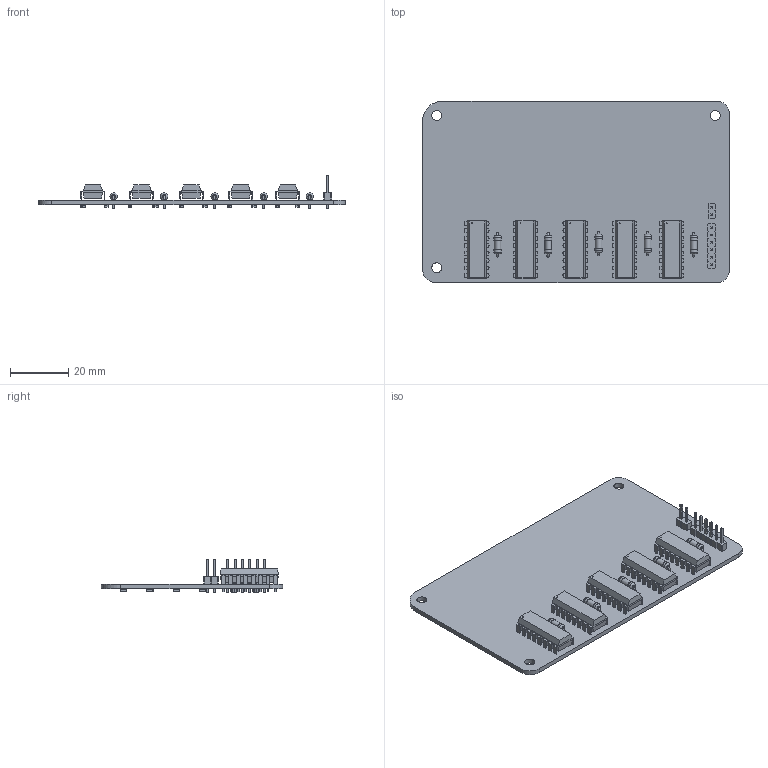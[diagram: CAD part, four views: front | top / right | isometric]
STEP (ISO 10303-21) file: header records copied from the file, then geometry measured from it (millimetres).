
FILE_DESCRIPTION(('KiCad electronic assembly'),'2;1');
FILE_NAME('pcb2.step','2022-07-13T19:21:17',('An Author'),('A Company'), 'Open CASCADE STEP processor 6.9','KiCad to STEP converter','Unknown' );
FILE_SCHEMA(('AUTOMOTIVE_DESIGN { 1 0 10303 214 1 1 1 1 }'));
Length unit declared in the file: millimetre
Products named in the file (12): Open CASCADE STEP translator 6.9 1; 150080RS75000_WRE; COMPOUND; PinHeader_1x02_P2.54mm_Vertical; SOLID; N16_TEX; PinHeader_1x06_P2.54mm_Vertical; R_Axial_DIN0207_L6.3mm_D2.5mm_P7.62mm_Horizontal
Assembly tree (58 placements, depth 3):
  Open CASCADE STEP translator 6.9 1
    150080RS75000_WRE  x40
      COMPOUND
    PinHeader_1x02_P2.54mm_Vertical
      SOLID
    N16_TEX  x5
      COMPOUND
    PinHeader_1x06_P2.54mm_Vertical
      SOLID
    R_Axial_DIN0207_L6.3mm_D2.5mm_P7.62mm_Horizontal  x5
      SOLID
    COMPOUND
Bounding box: 104.9 x 61.98 x 11.54 mm (x, y, z)
Volume: 13520.5 mm3; surface area: 18934.8 mm2
Topology: 218 solids, 218 shells, 2471 faces, 5873 edges, 3874 vertices
Faces by surface type: plane 2316, cylinder 135, torus 20
Full cylindrical faces by diameter (mm): 0.33 x5, 0.6 x10, 0.787 x80, 0.8 x10, 1 x8, 2.25 x5, 2.5 x10, 3.408 x3
Entity records: 39974 total; most frequent: CARTESIAN_POINT 7016, DIRECTION 5633, LINE 3724, VECTOR 3724, ORIENTED_EDGE 2794, PCURVE 2794, DEFINITIONAL_REPRESENTATION 2794, EDGE_CURVE 1397
